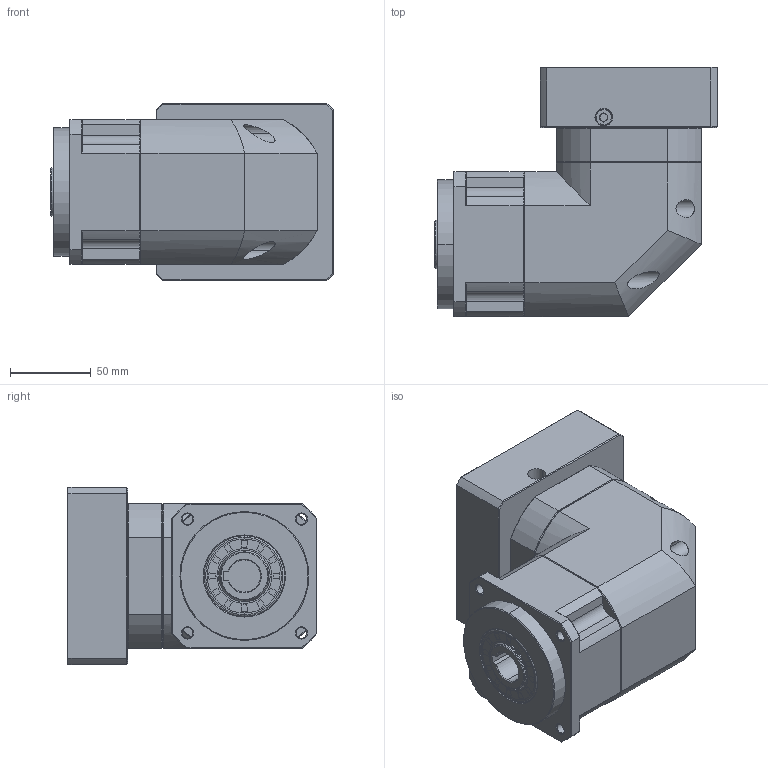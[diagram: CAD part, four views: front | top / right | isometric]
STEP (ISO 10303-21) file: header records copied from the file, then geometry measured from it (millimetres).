
FILE_DESCRIPTION (( 'STEP AP214' ), '1' );
FILE_NAME ('ZPBR090-K20-L1-P1-19-95-130-M8.step', '2024-06-07T18:39:27', ( 'Windows 蚚誧' ), ( 'Organization' ), 'SwSTEP 2.0', 'SolidWorks 2016', '' );
FILE_SCHEMA (( 'AUTOMOTIVE_DESIGN' ));
Length unit declared in the file: millimetre
Products named in the file (1): ZPBR090-K20-L1-P1-19-95-130-M8
Bounding box: 175.5 x 155 x 110 mm (x, y, z)
Surface area: 137947.2 mm2 (no closed solid volume)
Topology: 0 solids, 32 shells, 1795 faces, 4782 edges, 3075 vertices
Faces by surface type: plane 966, bspline 368, cone 234, cylinder 212, torus 15
Entity records: 84501 total; most frequent: CARTESIAN_POINT 38926, ORIENTED_EDGE 9544, DIRECTION 7410, EDGE_CURVE 4782, LINE 3208, VECTOR 3208, VERTEX_POINT 3075, AXIS2_PLACEMENT_3D 2101
